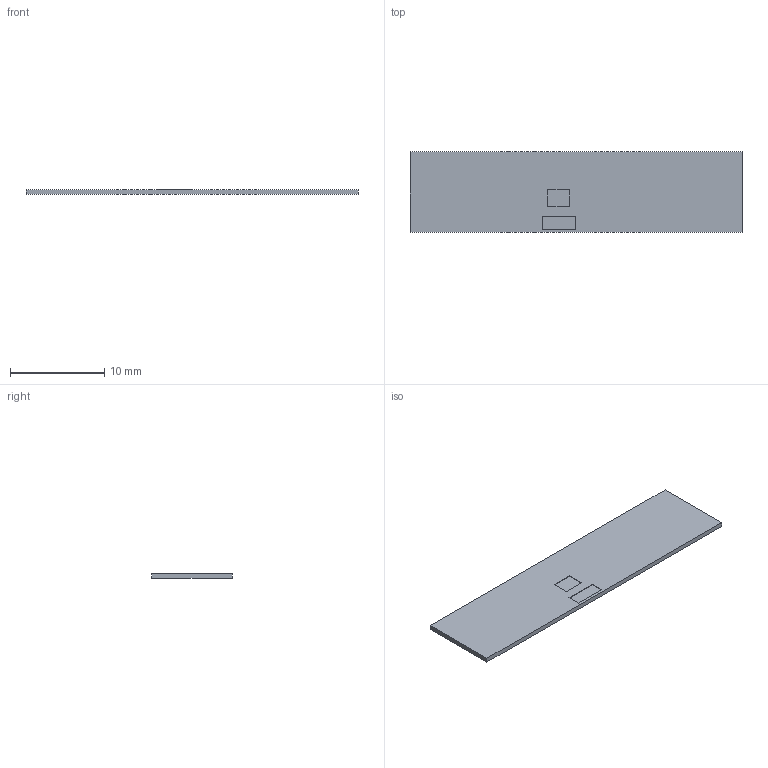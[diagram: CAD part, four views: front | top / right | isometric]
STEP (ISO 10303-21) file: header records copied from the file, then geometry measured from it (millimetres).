
FILE_DESCRIPTION((''),'2;1');
FILE_NAME('1001932FT','2018-01-19T',('mrodriguez'),(''),'CREO PARAMETRIC BY PTC INC, 2016130','CREO PARAMETRIC BY PTC INC, 2016130','');
FILE_SCHEMA(('AUTOMOTIVE_DESIGN { 1 0 10303 214 1 1 1 1 }'));
Length unit declared in the file: millimetre
Products named in the file (1): 1001932FT
Bounding box: 35.2 x 8.5 x 0.5 mm (x, y, z)
Volume: 149.1 mm3; surface area: 643.1 mm2
Topology: 1 solids, 1 shells, 16 faces, 36 edges, 24 vertices
Faces by surface type: plane 16
Entity records: 637 total; most frequent: CARTESIAN_POINT 78, ORIENTED_EDGE 72, DIRECTION 68, PRESENTATION_STYLE_ASSIGNMENT 39, STYLED_ITEM 37, VECTOR 36, LINE 36, CURVE_STYLE 36
